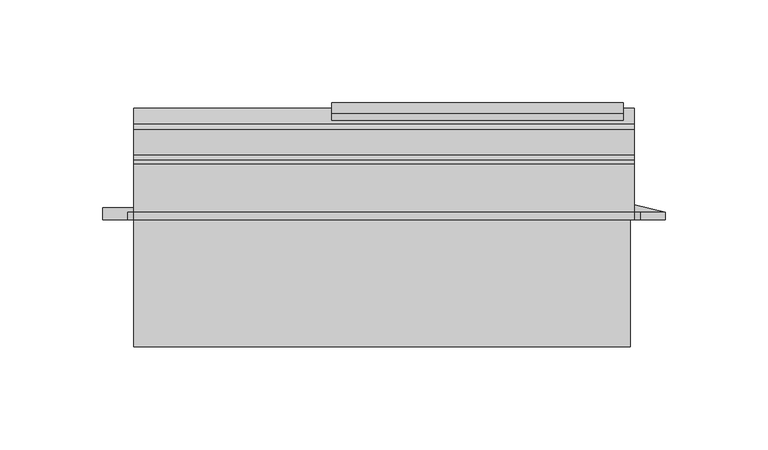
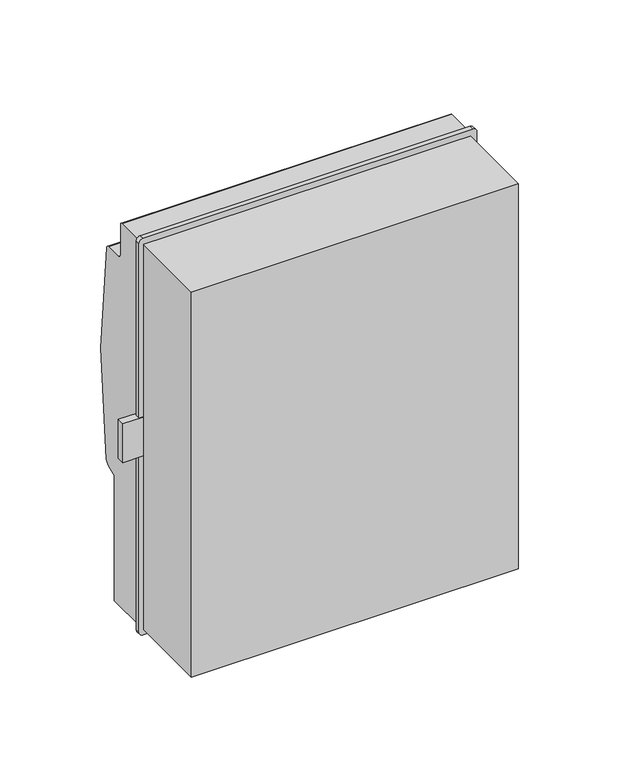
"""IFC4 building model written with IfcOpenShell, lengths in millimetres: proxy geometry, КВУ-1_3-4 : КВУ-1/3-4."""

from ifc_helpers import new_model, si_unit, point, frame, frame_2d, origin, place, context, project, spatial, polyline, circle_curve, trimmed, segment, composite_curve, outline, extrude, source, transform, mapped, element, save


def electrical_equipment_bd5a1a53(model_context):
    return source(origin(), model_context, "Body", "SweptSolid", [
        extrude(outline(composite_curve([segment(polyline([(115.5392613, -27.6052968), (111.8564334, -27.6052968), (111.8564334, 106.7283255), (115.3918115, 106.7283255)]), True, "CONTINUOUS"), segment(trimmed(circle_curve(frame_2d((-342.2170059, 39.0591442)), 462.585071), [point((115.3918115, 106.7283255))], [point((115.5392613, -27.6052968))], False, "CARTESIAN"), True, "CONTINUOUS")], self_intersect=False)), frame((-25.386461, 0.0, 0.0), z_axis=(1.0, 0.0, 0.0), x_axis=(0.0, 1.0, 0.0)), (0.0, 0.0, 1.0), 141.5761549),
        extrude(outline(composite_curve([segment(polyline([(67.2564334, 149.691823), (90.5084319, 149.691823)]), True, "CONTINUOUS"), segment(trimmed(circle_curve(frame_2d((90.5084319, 147.6927228)), 1.9991002), [point((90.5084319, 149.691823))], [point((92.5075321, 147.6927228))], False, "CARTESIAN"), True, "CONTINUOUS"), segment(polyline([(92.5075321, 147.6927228), (92.5075321, 124.0316555)]), True, "CONTINUOUS"), segment(trimmed(circle_curve(frame_2d((95.1249338, 124.0316555)), 2.6174017), [point((92.5075321, 124.0316555))], [point((95.1249338, 121.4142538))], True, "CARTESIAN"), True, "CONTINUOUS"), segment(polyline([(95.1249338, 121.4142538), (107.4313183, 121.4142538)]), True, "CONTINUOUS"), segment(trimmed(circle_curve(frame_2d((107.4313183, 118.4416516)), 2.9726022), [point((107.4313183, 121.4142538))], [point((110.3566967, 118.969406))], False, "CARTESIAN"), True, "CONTINUOUS"), segment(trimmed(circle_curve(frame_2d((-347.2521207, 36.4142538)), 464.9958956), [point((110.3566967, 118.969406))], [point((110.421176, -45.7826832))], False, "CARTESIAN"), True, "CONTINUOUS"), segment(trimmed(circle_curve(frame_2d((105.4999143, -44.8988373)), 5.0), [point((110.421176, -45.7826832))], [point((107.2551144, -49.5806396))], False, "CARTESIAN"), True, "CONTINUOUS"), segment(polyline([(107.2551144, -49.5806396), (101.5543534, -51.7178457)]), True, "CONTINUOUS"), segment(trimmed(circle_curve(frame_2d((102.2564334, -53.5905666)), 2.0), [point((101.5543534, -51.7178457))], [point((100.2564334, -53.5905666))], True, "CARTESIAN"), True, "CONTINUOUS"), segment(polyline([(100.2564334, -53.5905666), (100.2564334, -150.0), (67.2564334, -150.0), (67.2564334, 149.691823)]), True, "CONTINUOUS")], self_intersect=False)), frame((-121.5, 0.0, 0.0), z_axis=(1.0, 0.0, 0.0), x_axis=(0.0, 1.0, 0.0)), (0.0, 0.0, 1.0), 243.0),
        extrude(outline(polyline([(121.5, 70.8945534), (136.5, 67.2564334), (121.5, 67.2564334), (121.5, 70.8945534)])), frame((0.0, 0.0, -76.1749873), z_axis=(0.0, 0.0, 1.0), x_axis=(1.0, 0.0, 0.0)), (0.0, 0.0, 1.0), 2.0),
        extrude(outline(polyline([(121.5, 70.8945534), (136.5, 67.2564334), (121.5, 67.2564334), (121.5, 70.8945534)])), frame((0.0, 0.0, -90.9375), z_axis=(0.0, 0.0, 1.0), x_axis=(1.0, 0.0, 0.0)), (0.0, 0.0, 1.0), 2.0),
        extrude(outline(polyline([(136.5, 63.7370791), (124.5, 63.7370791), (124.5, 67.2564334), (136.5, 67.2564334), (136.5, 63.7370791)])), frame((0.0, 0.0, -97.4758921), z_axis=(0.0, 0.0, 1.0), x_axis=(1.0, 0.0, 0.0)), (0.0, 0.0, 1.0), 29.3508921),
        extrude(outline(polyline([(121.5, 70.8945534), (136.5, 67.2564334), (121.5, 67.2564334), (121.5, 70.8945534)])), frame((0.0, 0.0, 76.1749873), z_axis=(0.0, 0.0, 1.0), x_axis=(1.0, 0.0, 0.0)), (0.0, 0.0, 1.0), 2.0),
        extrude(outline(polyline([(121.5, 70.8945534), (136.5, 67.2564334), (121.5, 67.2564334), (121.5, 70.8945534)])), frame((0.0, 0.0, 90.9375), z_axis=(0.0, 0.0, 1.0), x_axis=(1.0, 0.0, 0.0)), (0.0, 0.0, 1.0), 2.0),
        extrude(outline(polyline([(136.5, 63.7370791), (124.5, 63.7370791), (124.5, 67.2564334), (136.5, 67.2564334), (136.5, 63.7370791)])), frame((0.0, 0.0, 70.0), z_axis=(0.0, 0.0, 1.0), x_axis=(1.0, 0.0, 0.0)), (0.0, 0.0, 1.0), 29.3508921),
        extrude(outline(polyline([(-121.5, 63.7370791), (-136.5, 63.7370791), (-136.5, 69.4514089), (-121.5, 69.4514089), (-121.5, 63.7370791)])), frame((0.0, 0.0, -15.0), z_axis=(0.0, 0.0, 1.0), x_axis=(1.0, 0.0, 0.0)), (0.0, 0.0, 1.0), 30.1750375),
        extrude(outline(composite_curve([segment(polyline([(154.4644661, 121.4568648), (154.4644661, -121.4568648)]), True, "CONTINUOUS"), segment(trimmed(circle_curve(frame_2d((151.4213309, -121.4568648)), 3.0431352), [point((154.4644661, -121.4568648))], [point((151.4213309, -124.5))], False, "CARTESIAN"), True, "CONTINUOUS"), segment(polyline([(151.4213309, -124.5), (-151.4213309, -124.5)]), True, "CONTINUOUS"), segment(trimmed(circle_curve(frame_2d((-151.4213309, -121.4568648)), 3.0431352), [point((-151.4213309, -124.5))], [point((-154.4644661, -121.4568648))], False, "CARTESIAN"), True, "CONTINUOUS"), segment(polyline([(-154.4644661, -121.4568648), (-154.4644661, 121.4568648)]), True, "CONTINUOUS"), segment(trimmed(circle_curve(frame_2d((-151.4213309, 121.4568648)), 3.0431352), [point((-154.4644661, 121.4568648))], [point((-151.4213309, 124.5))], False, "CARTESIAN"), True, "CONTINUOUS"), segment(polyline([(-151.4213309, 124.5), (151.4213309, 124.5)]), True, "CONTINUOUS"), segment(trimmed(circle_curve(frame_2d((151.4213309, 121.4568648)), 3.0431352), [point((151.4213309, 124.5))], [point((154.4644661, 121.4568648))], False, "CARTESIAN"), True, "CONTINUOUS")], self_intersect=False)), frame((0.0, 63.7370791, 0.0), z_axis=(0.0, 1.0, 0.0), x_axis=(0.0, 0.0, 1.0)), (0.0, 0.0, 1.0), 3.5193543),
        extrude(outline(polyline([(119.5, 2.0), (-121.5, 2.0), (-121.5, 63.7370791), (119.5, 63.7370791), (119.5, 2.0)])), frame((0.0, 0.0, -150.0), z_axis=(0.0, 0.0, 1.0), x_axis=(1.0, 0.0, 0.0)), (0.0, 0.0, 1.0), 300.0),
    ])


if __name__ == "__main__":
    model = new_model("IFC4")
    model_context = context("Model", 3, world=origin())
    ifc_project = project(units=[si_unit("LENGTHUNIT", "METRE", prefix="MILLI")], contexts=[model_context])
    site = spatial("IfcSite", under=ifc_project)
    building = spatial("IfcBuilding", under=site)
    placement = place(None, origin())
    electrical_equipment_shape = electrical_equipment_bd5a1a53(model_context)
    element("IfcBuildingElementProxy", 1, Name="КВУ-1_3-4 : КВУ-1/3-4", ObjectType="КВУ-1_3-4 : КВУ-1/3-4", at=placement, inside=building, context=model_context, shape_type="MappedRepresentation", body=[
        mapped(electrical_equipment_shape, transform((0.0, 0.0, 0.0), x_axis=(1.0, 0.0, 0.0), y_axis=(0.0, 1.0, 0.0), z_axis=(0.0, 0.0, 1.0))),
    ])
    save(model, "model.ifc")
